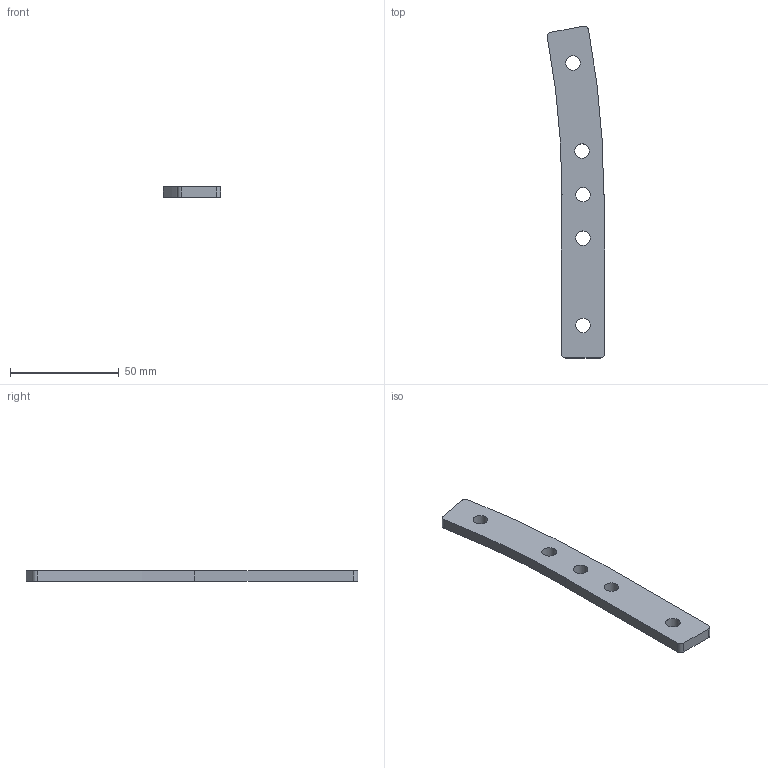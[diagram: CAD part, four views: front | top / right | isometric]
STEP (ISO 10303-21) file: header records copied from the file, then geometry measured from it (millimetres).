
FILE_DESCRIPTION(/* description */ ('CONNECTING STRIP VERTICAL BEND R400'),/* implementation_level */ '2;1');
FILE_NAME(/* name */ '\\carryline.intra\privat\users\mathias\Desktop\Tillfälliga filer\100-7026.stp',/* time_stamp */ '2018-11-20T11:15:21+01:00',/* author */ ('MOB'),/* organization */ ('CARRYLINE AB'),/* preprocessor_version */ 'ST-DEVELOPER v17',/* originating_system */ 'Autodesk Inventor 2018',/* authorisation */ '');
FILE_SCHEMA (('AUTOMOTIVE_DESIGN { 1 0 10303 214 3 1 1 }'));
Length unit declared in the file: millimetre
Products named in the file (1): 100-7026
Bounding box: 26.37 x 152.46 x 5 mm (x, y, z)
Volume: 13954.3 mm3; surface area: 7801.1 mm2
Topology: 1 solids, 1 shells, 19 faces, 56 edges, 39 vertices
Faces by surface type: cylinder 11, plane 8
Full cylindrical faces by diameter (mm): 6.647 x5
Entity records: 716 total; most frequent: DIRECTION 123, CARTESIAN_POINT 115, ORIENTED_EDGE 112, EDGE_CURVE 56, AXIS2_PLACEMENT_3D 47, VERTEX_POINT 39, EDGE_LOOP 29, LINE 29
